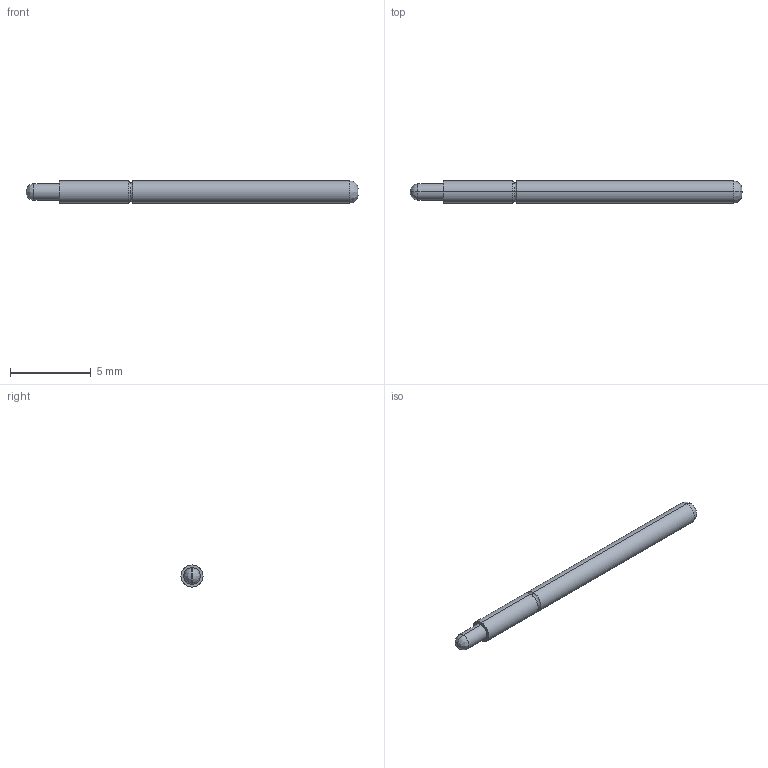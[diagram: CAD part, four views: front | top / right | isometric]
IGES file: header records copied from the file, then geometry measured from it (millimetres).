
Start section: SolidWorks IGES file using analytic representation for surfaces
Global section: file name: O:\PYLON\IGES FILES\P2664\P2664G-1R1S REC'D.IGS; native system: SolidWorks 2015; preprocessor: SolidWorks 2015; author: kgolden; date: 171019.131412; units: inch
Bounding box: 20.6 x 1.37 x 1.37 mm (x, y, z)
Surface area: 91.8 mm2 (no closed solid volume)
Topology: 0 solids, 0 shells, 19 faces, 120 edges, 120 vertices
Faces by surface type: bspline 11, revolution 8
